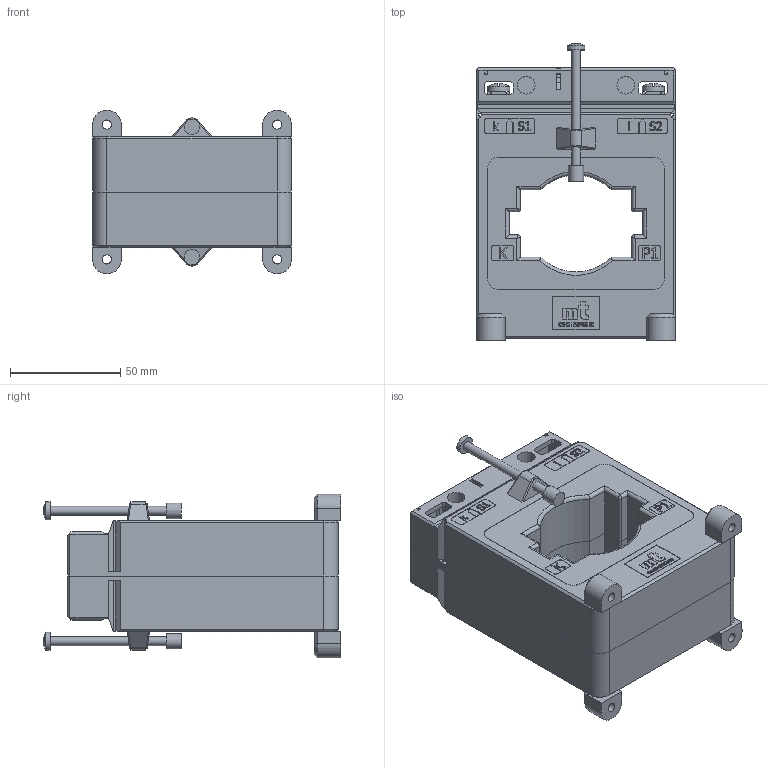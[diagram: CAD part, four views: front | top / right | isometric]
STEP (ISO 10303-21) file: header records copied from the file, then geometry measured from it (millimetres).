
FILE_DESCRIPTION(/* description */ (''),/* implementation_level */ '2;1');
FILE_NAME(/* name */ 'CLB 6.91.step',/* time_stamp */ '2024-10-12T13:56:30+02:00',/* author */ ('peter'),/* organization */ (''),/* preprocessor_version */ 'ST-DEVELOPER v20',/* originating_system */ 'Autodesk Inventor 2025',/* authorisation */ '');
FILE_SCHEMA (('AUTOMOTIVE_DESIGN { 1 0 10303 214 3 1 1 }'));
Length unit declared in the file: millimetre
Products named in the file (11): Current transformer CLB 6.91; Front plastic case CLB 6.91; Back plastic case CLB 6.91; Tape label CLB 6.91; Secondary terminal 28 CLB; Secondary terminal cover 37B CLB; Plastic mounting foot; Rivet 20; Insulating cap; Screw M5x8; Screw 4x60
Assembly tree (23 placements, depth 2):
  Current transformer CLB 6.91
    Front plastic case CLB 6.91
    Back plastic case CLB 6.91
    Tape label CLB 6.91
    Secondary terminal 28 CLB  x2
    Secondary terminal cover 37B CLB  x2
    Plastic mounting foot  x4
    Rivet 20  x4
    Insulating cap  x2
    Screw M5x8  x4
    Screw 4x60  x2
Bounding box: 90 x 134.47 x 74 mm (x, y, z)
Volume: 421174.7 mm3; surface area: 90697.7 mm2
Topology: 23 solids, 27 shells, 1842 faces, 4917 edges, 3220 vertices
Faces by surface type: plane 1143, bspline 399, cylinder 240, cone 38, torus 12, sphere 10
Full cylindrical faces by diameter (mm): 1.5 x4, 2.4 x4, 2.95 x2, 3 x6, 3.5 x2, 4 x8, 4.1 x4, 4.134 x4, 4.2 x4, 4.5 x4, 5 x8, 7 x2, 8 x18, 9 x4, 10 x4
Entity records: 51407 total; most frequent: CARTESIAN_POINT 14191, ORIENTED_EDGE 8374, DIRECTION 6084, EDGE_CURVE 4187, LINE 2992, VECTOR 2992, VERTEX_POINT 2751, EDGE_LOOP 1696
